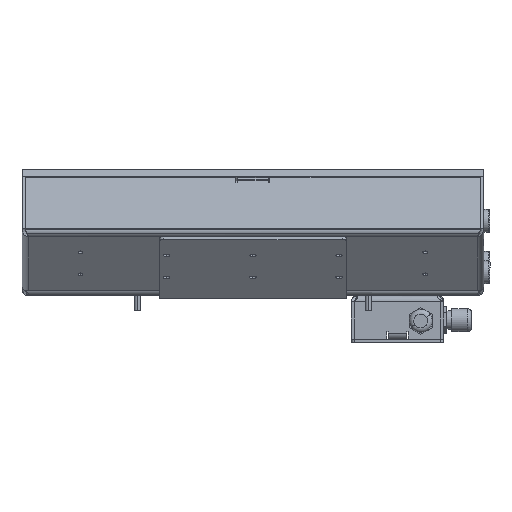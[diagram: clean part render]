
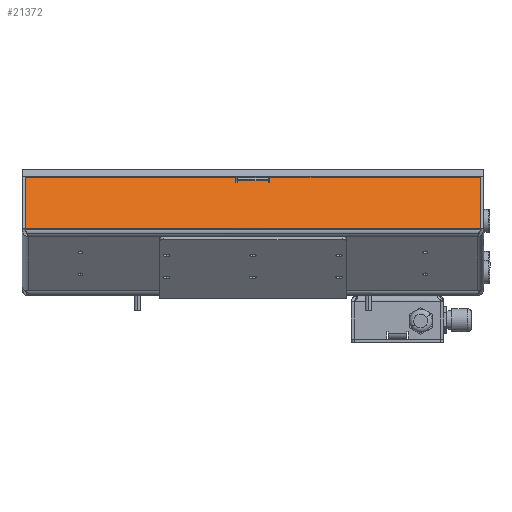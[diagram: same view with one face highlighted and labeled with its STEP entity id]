
A CAD part, front view. The second image highlights one B-rep face of the part: STEP entity #21372.
In plain terms, the highlighted planar face has unit normal (0, -0.94, 0.342) as drawn and (1, 0, 0) by its records, which use the part's own axes.
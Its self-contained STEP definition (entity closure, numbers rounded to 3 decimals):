
#91 = ORIENTED_EDGE ( 'NONE', *, *, #32176, .T. ) ;
#1047 = ORIENTED_EDGE ( 'NONE', *, *, #1596, .T. ) ;
#1596 = EDGE_CURVE ( 'NONE', #31222, #18549, #9960, .T. ) ;
#1791 = CARTESIAN_POINT ( 'NONE',  ( 55., -10., 36. ) ) ;
#1988 = CARTESIAN_POINT ( 'NONE',  ( 55., 11., 0. ) ) ;
#2634 = CARTESIAN_POINT ( 'NONE',  ( 55., 0., 0. ) ) ;
#2740 = VECTOR ( 'NONE', #27502, 1000. ) ;
#2759 = LINE ( 'NONE', #13531, #26326 ) ;
#3341 = EDGE_CURVE ( 'NONE', #10264, #31222, #9559, .T. ) ;
#3357 = EDGE_CURVE ( 'NONE', #9065, #18297, #31044, .T. ) ;
#3920 = EDGE_LOOP ( 'NONE', ( #26047, #15828, #32105, #9600, #18865, #22513, #15098, #91, #7562, #9054, #14873, #1047 ) ) ;
#4420 = VERTEX_POINT ( 'NONE', #35059 ) ;
#4914 = DIRECTION ( 'NONE',  ( 0., 0., -1. ) ) ;
#6190 = EDGE_CURVE ( 'NONE', #33796, #25307, #33604, .T. ) ;
#6474 = CARTESIAN_POINT ( 'NONE',  ( 55., -10., 0. ) ) ;
#6910 = VECTOR ( 'NONE', #26150, 1000. ) ;
#7015 = CARTESIAN_POINT ( 'NONE',  ( 55., 10., 36. ) ) ;
#7073 = EDGE_CURVE ( 'NONE', #18297, #23284, #19942, .T. ) ;
#7519 = CARTESIAN_POINT ( 'NONE',  ( 55., -150., 2. ) ) ;
#7562 = ORIENTED_EDGE ( 'NONE', *, *, #6190, .F. ) ;
#8040 = VERTEX_POINT ( 'NONE', #12530 ) ;
#8242 = CARTESIAN_POINT ( 'NONE',  ( 55., 0., 35. ) ) ;
#9054 = ORIENTED_EDGE ( 'NONE', *, *, #11786, .F. ) ;
#9065 = VERTEX_POINT ( 'NONE', #31710 ) ;
#9559 = LINE ( 'NONE', #31215, #20602 ) ;
#9600 = ORIENTED_EDGE ( 'NONE', *, *, #32451, .F. ) ;
#9727 = DIRECTION ( 'NONE',  ( 0., 1., 0. ) ) ;
#9765 = CARTESIAN_POINT ( 'NONE',  ( 55., -147.9, 2. ) ) ;
#9960 = LINE ( 'NONE', #33944, #6910 ) ;
#10149 = LINE ( 'NONE', #7519, #17171 ) ;
#10262 = AXIS2_PLACEMENT_3D ( 'NONE', #2634, #32780, #11115 ) ;
#10264 = VERTEX_POINT ( 'NONE', #21517 ) ;
#10360 = VECTOR ( 'NONE', #9727, 1000. ) ;
#10949 = CARTESIAN_POINT ( 'NONE',  ( 55., 10., 35. ) ) ;
#10966 = CARTESIAN_POINT ( 'NONE',  ( 55., 0., 36. ) ) ;
#11115 = DIRECTION ( 'NONE',  ( 0., 0., 1. ) ) ;
#11617 = CARTESIAN_POINT ( 'NONE',  ( 55., -10., 35. ) ) ;
#11786 = EDGE_CURVE ( 'NONE', #10264, #33796, #10149, .T. ) ;
#12530 = CARTESIAN_POINT ( 'NONE',  ( 55., -11., 38. ) ) ;
#12617 = EDGE_CURVE ( 'NONE', #26188, #26618, #2759, .T. ) ;
#13158 = LINE ( 'NONE', #29515, #26593 ) ;
#13531 = CARTESIAN_POINT ( 'NONE',  ( 55., 10., 0. ) ) ;
#14327 = LINE ( 'NONE', #10966, #2740 ) ;
#14367 = DIRECTION ( 'NONE',  ( 0., -1., 0. ) ) ;
#14873 = ORIENTED_EDGE ( 'NONE', *, *, #3341, .T. ) ;
#15098 = ORIENTED_EDGE ( 'NONE', *, *, #19225, .F. ) ;
#15828 = ORIENTED_EDGE ( 'NONE', *, *, #34191, .F. ) ;
#16926 = LINE ( 'NONE', #8242, #24924 ) ;
#17047 = LINE ( 'NONE', #30380, #30513 ) ;
#17171 = VECTOR ( 'NONE', #21167, 1000. ) ;
#17178 = DIRECTION ( 'NONE',  ( 0., 0., 1. ) ) ;
#18297 = VERTEX_POINT ( 'NONE', #11617 ) ;
#18549 = VERTEX_POINT ( 'NONE', #29707 ) ;
#18865 = ORIENTED_EDGE ( 'NONE', *, *, #7073, .F. ) ;
#19225 = EDGE_CURVE ( 'NONE', #8040, #9065, #13158, .T. ) ;
#19942 = LINE ( 'NONE', #6474, #23087 ) ;
#20602 = VECTOR ( 'NONE', #17178, 1000. ) ;
#20789 = LINE ( 'NONE', #1988, #26815 ) ;
#20996 = DIRECTION ( 'NONE',  ( 0., 0., -1. ) ) ;
#21167 = DIRECTION ( 'NONE',  ( 0., -1., 0. ) ) ;
#21372 = ADVANCED_FACE ( 'NONE', ( #21780 ), #29784, .F. ) ;
#21517 = CARTESIAN_POINT ( 'NONE',  ( 55., 147.9, 2. ) ) ;
#21780 = FACE_OUTER_BOUND ( 'NONE', #3920, .T. ) ;
#22513 = ORIENTED_EDGE ( 'NONE', *, *, #3357, .F. ) ;
#23087 = VECTOR ( 'NONE', #25101, 1000. ) ;
#23284 = VERTEX_POINT ( 'NONE', #1791 ) ;
#23634 = DIRECTION ( 'NONE',  ( 0., 0., 1. ) ) ;
#24924 = VECTOR ( 'NONE', #27607, 1000. ) ;
#25101 = DIRECTION ( 'NONE',  ( 0., 0., 1. ) ) ;
#25219 = CARTESIAN_POINT ( 'NONE',  ( 55., -147.9, 38. ) ) ;
#25307 = VERTEX_POINT ( 'NONE', #25219 ) ;
#26047 = ORIENTED_EDGE ( 'NONE', *, *, #28142, .F. ) ;
#26150 = DIRECTION ( 'NONE',  ( 0., -1., 0. ) ) ;
#26188 = VERTEX_POINT ( 'NONE', #7015 ) ;
#26326 = VECTOR ( 'NONE', #4914, 1000. ) ;
#26593 = VECTOR ( 'NONE', #20996, 1000. ) ;
#26618 = VERTEX_POINT ( 'NONE', #10949 ) ;
#26688 = CARTESIAN_POINT ( 'NONE',  ( 55., 147.9, 38. ) ) ;
#26815 = VECTOR ( 'NONE', #23634, 1000. ) ;
#27502 = DIRECTION ( 'NONE',  ( 0., 1., 0. ) ) ;
#27607 = DIRECTION ( 'NONE',  ( 0., 1., 0. ) ) ;
#28142 = EDGE_CURVE ( 'NONE', #4420, #18549, #20789, .T. ) ;
#29515 = CARTESIAN_POINT ( 'NONE',  ( 55., -11., 0. ) ) ;
#29707 = CARTESIAN_POINT ( 'NONE',  ( 55., 11., 38. ) ) ;
#29784 = PLANE ( 'NONE',  #10262 ) ;
#30380 = CARTESIAN_POINT ( 'NONE',  ( 55., 0., 38. ) ) ;
#30513 = VECTOR ( 'NONE', #14367, 1000. ) ;
#31044 = LINE ( 'NONE', #31382, #10360 ) ;
#31077 = VECTOR ( 'NONE', #31589, 1000. ) ;
#31215 = CARTESIAN_POINT ( 'NONE',  ( 55., 147.9, 2. ) ) ;
#31222 = VERTEX_POINT ( 'NONE', #26688 ) ;
#31382 = CARTESIAN_POINT ( 'NONE',  ( 55., 0., 35. ) ) ;
#31589 = DIRECTION ( 'NONE',  ( 0., 0., 1. ) ) ;
#31710 = CARTESIAN_POINT ( 'NONE',  ( 55., -11., 35. ) ) ;
#31921 = CARTESIAN_POINT ( 'NONE',  ( 55., -147.9, 2. ) ) ;
#32105 = ORIENTED_EDGE ( 'NONE', *, *, #12617, .F. ) ;
#32176 = EDGE_CURVE ( 'NONE', #8040, #25307, #17047, .T. ) ;
#32451 = EDGE_CURVE ( 'NONE', #23284, #26188, #14327, .T. ) ;
#32780 = DIRECTION ( 'NONE',  ( -1., 0., 0. ) ) ;
#33604 = LINE ( 'NONE', #9765, #31077 ) ;
#33796 = VERTEX_POINT ( 'NONE', #31921 ) ;
#33944 = CARTESIAN_POINT ( 'NONE',  ( 55., 0., 38. ) ) ;
#34191 = EDGE_CURVE ( 'NONE', #26618, #4420, #16926, .T. ) ;
#35059 = CARTESIAN_POINT ( 'NONE',  ( 55., 11., 35. ) ) ;
